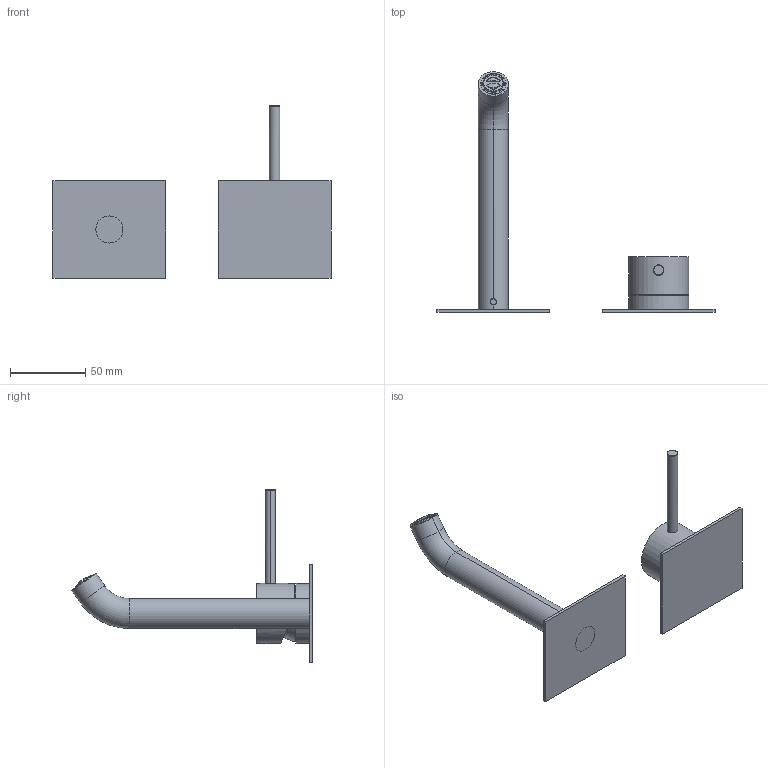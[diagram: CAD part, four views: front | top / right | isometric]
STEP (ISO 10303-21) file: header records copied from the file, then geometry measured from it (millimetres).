
FILE_DESCRIPTION((''),'2;1');
FILE_NAME('69547B21_SW0001','2025-11-19T10:43:43',('carloff'),(''),'CREO PARAMETRIC BY PTC INC, 2022014','CREO PARAMETRIC BY PTC INC, 2022014','');
FILE_SCHEMA(('CONFIG_CONTROL_DESIGN'));
Products named in the file (1): 69547B21_SW0001
Bounding box: 185 x 160.19 x 114.9 mm (x, y, z)
Volume: 68526.2 mm3; surface area: 52377.6 mm2
Topology: 3 solids, 3 shells, 1690 faces, 5015 edges, 3336 vertices
Faces by surface type: plane 1342, torus 124, cylinder 113, bspline 79, cone 23, sphere 6, extrusion 3
Entity records: 74702 total; most frequent: CARTESIAN_POINT 33216, ORIENTED_EDGE 10018, DIRECTION 6442, EDGE_CURVE 5009, VERTEX_POINT 3336, B_SPLINE_CURVE_WITH_KNOTS 2392, AXIS2_PLACEMENT_3D 2211, VECTOR 2020
